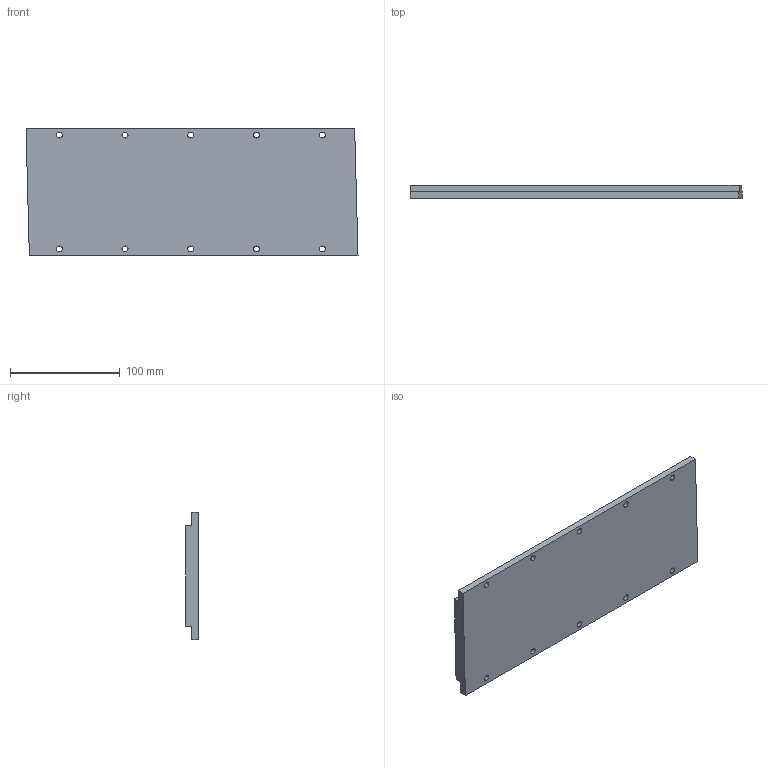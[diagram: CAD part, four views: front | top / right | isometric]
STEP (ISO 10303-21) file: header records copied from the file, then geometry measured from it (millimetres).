
FILE_DESCRIPTION (( 'STEP AP214' ), '1' );
FILE_NAME ('隅赽MK3-300.STEP', '2025-09-05T09:01:39', ( '' ), ( '' ), 'SwSTEP 2.0', 'SolidWorks 2016', '' );
FILE_SCHEMA (( 'AUTOMOTIVE_DESIGN' ));
Length unit declared in the file: millimetre
Products named in the file (1): 隅赽MK3-300
Bounding box: 303.04 x 11.7 x 116 mm (x, y, z)
Volume: 364713.2 mm3; surface area: 79654.3 mm2
Topology: 1 solids, 1 shells, 60 faces, 168 edges, 112 vertices
Faces by surface type: plane 28, cylinder 20, bspline 12
Entity records: 2686 total; most frequent: CARTESIAN_POINT 1105, ORIENTED_EDGE 336, DIRECTION 282, EDGE_CURVE 168, VERTEX_POINT 112, VECTOR 104, LINE 104, AXIS2_PLACEMENT_3D 89
